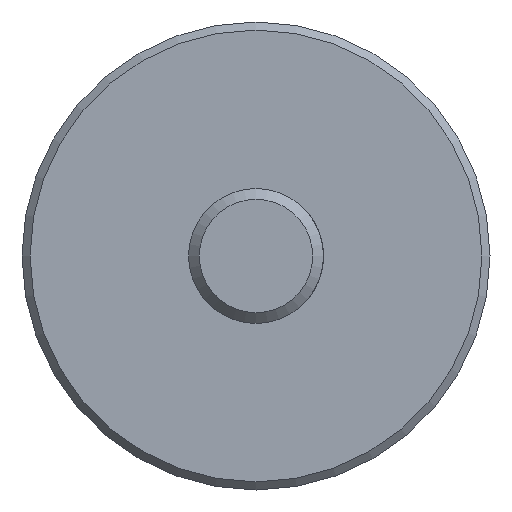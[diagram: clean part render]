
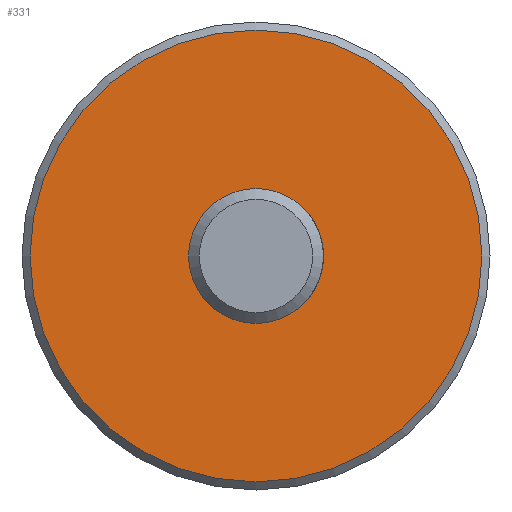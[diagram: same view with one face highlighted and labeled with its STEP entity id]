
A CAD part, front view. The second image highlights one B-rep face of the part: STEP entity #331.
In plain terms, the highlighted planar face has unit normal (0, -1, 0).
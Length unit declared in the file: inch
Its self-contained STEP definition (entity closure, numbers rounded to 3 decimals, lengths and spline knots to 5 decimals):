
#66 = AXIS2_PLACEMENT_3D ( 'NONE', #464, #149, #552 ) ;
#72 = FACE_BOUND ( 'NONE', #154, .T. ) ;
#91 = AXIS2_PLACEMENT_3D ( 'NONE', #356, #306, #482 ) ;
#109 = DIRECTION ( 'NONE',  ( 0., 1., 0. ) ) ;
#113 = EDGE_CURVE ( 'NONE', #220, #220, #219, .T. ) ;
#115 = ORIENTED_EDGE ( 'NONE', *, *, #382, .F. ) ;
#149 = DIRECTION ( 'NONE',  ( 0., 1., 0. ) ) ;
#154 = EDGE_LOOP ( 'NONE', ( #460 ) ) ;
#193 = CIRCLE ( 'NONE', #66, 1.255 ) ;
#219 = CIRCLE ( 'NONE', #91, 0.375 ) ;
#220 = VERTEX_POINT ( 'NONE', #450 ) ;
#243 = FACE_OUTER_BOUND ( 'NONE', #246, .T. ) ;
#246 = EDGE_LOOP ( 'NONE', ( #115 ) ) ;
#260 = VERTEX_POINT ( 'NONE', #524 ) ;
#306 = DIRECTION ( 'NONE',  ( 0., 1., 0. ) ) ;
#331 = ADVANCED_FACE ( 'NONE', ( #243, #72 ), #507, .F. ) ;
#356 = CARTESIAN_POINT ( 'NONE',  ( 0., 3.28, 0. ) ) ;
#382 = EDGE_CURVE ( 'NONE', #260, #260, #193, .T. ) ;
#426 = CARTESIAN_POINT ( 'NONE',  ( 0.375, 3.28, 0. ) ) ;
#429 = AXIS2_PLACEMENT_3D ( 'NONE', #426, #109, #462 ) ;
#450 = CARTESIAN_POINT ( 'NONE',  ( 0., 3.28, 0.375 ) ) ;
#460 = ORIENTED_EDGE ( 'NONE', *, *, #113, .T. ) ;
#462 = DIRECTION ( 'NONE',  ( 0., 0., 1. ) ) ;
#464 = CARTESIAN_POINT ( 'NONE',  ( 0., 3.28, 0. ) ) ;
#482 = DIRECTION ( 'NONE',  ( 0., 0., 1. ) ) ;
#507 = PLANE ( 'NONE',  #429 ) ;
#524 = CARTESIAN_POINT ( 'NONE',  ( 0., 3.28, 1.255 ) ) ;
#552 = DIRECTION ( 'NONE',  ( 0., 0., 1. ) ) ;
